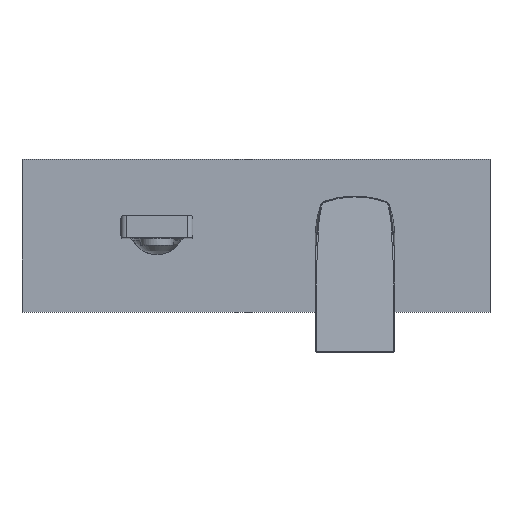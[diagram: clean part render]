
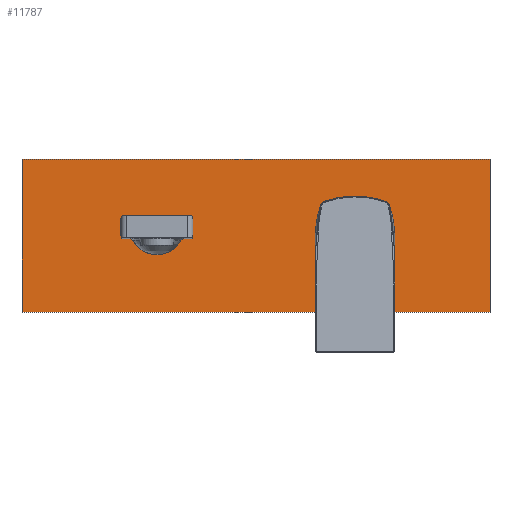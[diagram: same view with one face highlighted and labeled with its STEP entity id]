
A CAD part, top view. The second image highlights one B-rep face of the part: STEP entity #11787.
In plain terms, the highlighted planar face has unit normal (0, 0, 1).
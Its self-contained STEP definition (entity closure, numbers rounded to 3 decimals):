
#3757=DIRECTION('',(0.,-1.,0.));
#3758=VECTOR('',#3757,85.);
#3759=CARTESIAN_POINT('',(-187.,42.5,45.7));
#3760=LINE('',#3759,#3758);
#3761=DIRECTION('',(-1.,0.,0.));
#3762=VECTOR('',#3761,260.);
#3763=CARTESIAN_POINT('',(73.,42.5,45.7));
#3764=LINE('',#3763,#3762);
#3765=DIRECTION('',(0.,1.,0.));
#3766=VECTOR('',#3765,85.);
#3767=CARTESIAN_POINT('',(73.,-42.5,45.7));
#3768=LINE('',#3767,#3766);
#3769=DIRECTION('',(1.,0.,0.));
#3770=VECTOR('',#3769,260.);
#3771=CARTESIAN_POINT('',(-187.,-42.5,45.7));
#3772=LINE('',#3771,#3770);
#3773=CARTESIAN_POINT('',(-2.,0.,45.7));
#3774=DIRECTION('',(0.,0.,1.));
#3775=DIRECTION('',(1.,0.,0.));
#3776=AXIS2_PLACEMENT_3D('',#3773,#3774,#3775);
#3778=CARTESIAN_POINT('',(-2.,0.,45.7));
#3779=DIRECTION('',(0.,0.,1.));
#3780=DIRECTION('',(-1.,0.,0.));
#3781=AXIS2_PLACEMENT_3D('',#3778,#3779,#3780);
#3783=DIRECTION('',(0.,-1.,0.));
#3784=VECTOR('',#3783,9.);
#3785=CARTESIAN_POINT('',(-92.,9.,45.7));
#3786=LINE('',#3785,#3784);
#3787=CARTESIAN_POINT('',(-112.,4.5,45.7));
#3788=DIRECTION('',(0.,0.,-1.));
#3789=DIRECTION('',(0.948,0.317,0.));
#3790=AXIS2_PLACEMENT_3D('',#3787,#3788,#3789);
#3792=DIRECTION('',(1.,0.,0.));
#3793=VECTOR('',#3792,38.884);
#3794=CARTESIAN_POINT('',(-131.442,11.,45.7));
#3795=LINE('',#3794,#3793);
#3796=CARTESIAN_POINT('',(-112.,4.5,45.7));
#3797=DIRECTION('',(0.,0.,-1.));
#3798=DIRECTION('',(-0.976,0.22,0.));
#3799=AXIS2_PLACEMENT_3D('',#3796,#3797,#3798);
#3801=DIRECTION('',(0.,1.,0.));
#3802=VECTOR('',#3801,9.);
#3803=CARTESIAN_POINT('',(-132.,0.,45.7));
#3804=LINE('',#3803,#3802);
#3805=CARTESIAN_POINT('',(-112.,4.5,45.7));
#3806=DIRECTION('',(0.,0.,-1.));
#3807=DIRECTION('',(-0.956,-0.293,0.));
#3808=AXIS2_PLACEMENT_3D('',#3805,#3806,#3807);
#3810=DIRECTION('',(-1.,0.,0.));
#3811=VECTOR('',#3810,4.922);
#3812=CARTESIAN_POINT('',(-126.68,-1.5,45.7));
#3813=LINE('',#3812,#3811);
#3814=DIRECTION('',(-0.819,0.574,0.));
#3815=VECTOR('',#3814,1.715);
#3816=CARTESIAN_POINT('',(-125.275,-2.484,45.7));
#3817=LINE('',#3816,#3815);
#3818=CARTESIAN_POINT('',(-125.275,-2.484,45.7));
#3819=CARTESIAN_POINT('',(-124.432,-4.086,45.7));
#3820=CARTESIAN_POINT('',(-122.159,-6.982,45.7));
#3821=CARTESIAN_POINT('',(-117.432,-9.837,45.7));
#3822=CARTESIAN_POINT('',(-113.811,-10.5,45.7));
#3823=CARTESIAN_POINT('',(-112.,-10.5,45.7));
#3825=CARTESIAN_POINT('',(-112.,-10.5,45.7));
#3826=CARTESIAN_POINT('',(-110.189,-10.5,45.7));
#3827=CARTESIAN_POINT('',(-106.568,-9.837,45.7));
#3828=CARTESIAN_POINT('',(-101.841,-6.982,45.7));
#3829=CARTESIAN_POINT('',(-99.568,-4.086,45.7));
#3830=CARTESIAN_POINT('',(-98.725,-2.484,45.7));
#3832=DIRECTION('',(-0.819,-0.574,0.));
#3833=VECTOR('',#3832,1.715);
#3834=CARTESIAN_POINT('',(-97.32,-1.5,45.7));
#3835=LINE('',#3834,#3833);
#3836=DIRECTION('',(-1.,0.,0.));
#3837=VECTOR('',#3836,4.922);
#3838=CARTESIAN_POINT('',(-92.398,-1.5,45.7));
#3839=LINE('',#3838,#3837);
#3840=CARTESIAN_POINT('',(-112.,4.5,45.7));
#3841=DIRECTION('',(0.,0.,-1.));
#3842=DIRECTION('',(0.976,-0.22,0.));
#3843=AXIS2_PLACEMENT_3D('',#3840,#3841,#3842);
#9114=CARTESIAN_POINT('',(-187.,-42.5,45.7));
#9115=CARTESIAN_POINT('',(73.,-42.5,45.7));
#9116=VERTEX_POINT('',#9114);
#9117=VERTEX_POINT('',#9115);
#9118=CARTESIAN_POINT('',(73.,42.5,45.7));
#9119=CARTESIAN_POINT('',(-187.,42.5,45.7));
#9120=VERTEX_POINT('',#9118);
#9121=VERTEX_POINT('',#9119);
#9130=CARTESIAN_POINT('',(18.25,0.,45.7));
#9131=CARTESIAN_POINT('',(-22.25,0.,45.7));
#9132=VERTEX_POINT('',#9130);
#9133=VERTEX_POINT('',#9131);
#9362=CARTESIAN_POINT('',(-92.,9.,45.7));
#9363=CARTESIAN_POINT('',(-92.,0.,45.7));
#9364=VERTEX_POINT('',#9362);
#9365=VERTEX_POINT('',#9363);
#9366=CARTESIAN_POINT('',(-92.398,-1.5,45.7));
#9367=CARTESIAN_POINT('',(-97.32,-1.5,45.7));
#9368=VERTEX_POINT('',#9366);
#9369=VERTEX_POINT('',#9367);
#9370=CARTESIAN_POINT('',(-126.68,-1.5,45.7));
#9371=CARTESIAN_POINT('',(-131.602,-1.5,45.7));
#9372=VERTEX_POINT('',#9370);
#9373=VERTEX_POINT('',#9371);
#9374=CARTESIAN_POINT('',(-132.,0.,45.7));
#9375=CARTESIAN_POINT('',(-132.,9.,45.7));
#9376=VERTEX_POINT('',#9374);
#9377=VERTEX_POINT('',#9375);
#9378=CARTESIAN_POINT('',(-131.442,11.,45.7));
#9379=CARTESIAN_POINT('',(-92.558,11.,45.7));
#9380=VERTEX_POINT('',#9378);
#9381=VERTEX_POINT('',#9379);
#9382=VERTEX_POINT('',#3825);
#9383=VERTEX_POINT('',#3830);
#9384=VERTEX_POINT('',#3818);
#11742=CARTESIAN_POINT('',(-57.,0.,45.7));
#11743=DIRECTION('',(0.,0.,1.));
#11744=DIRECTION('',(1.,0.,0.));
#11745=AXIS2_PLACEMENT_3D('',#11742,#11743,#11744);
#11746=PLANE('',#11745);
#11747=ORIENTED_EDGE('',*,*,#11694,.F.);
#11748=ORIENTED_EDGE('',*,*,#11709,.F.);
#11749=ORIENTED_EDGE('',*,*,#11723,.F.);
#11750=ORIENTED_EDGE('',*,*,#11736,.F.);
#11751=EDGE_LOOP('',(#11747,#11748,#11749,#11750));
#11752=FACE_OUTER_BOUND('',#11751,.F.);
#11754=ORIENTED_EDGE('',*,*,#11753,.T.);
#11756=ORIENTED_EDGE('',*,*,#11755,.T.);
#11757=EDGE_LOOP('',(#11754,#11756));
#11758=FACE_BOUND('',#11757,.F.);
#11760=ORIENTED_EDGE('',*,*,#11759,.F.);
#11762=ORIENTED_EDGE('',*,*,#11761,.F.);
#11764=ORIENTED_EDGE('',*,*,#11763,.F.);
#11766=ORIENTED_EDGE('',*,*,#11765,.F.);
#11768=ORIENTED_EDGE('',*,*,#11767,.F.);
#11770=ORIENTED_EDGE('',*,*,#11769,.F.);
#11772=ORIENTED_EDGE('',*,*,#11771,.F.);
#11774=ORIENTED_EDGE('',*,*,#11773,.F.);
#11776=ORIENTED_EDGE('',*,*,#11775,.T.);
#11778=ORIENTED_EDGE('',*,*,#11777,.T.);
#11780=ORIENTED_EDGE('',*,*,#11779,.F.);
#11782=ORIENTED_EDGE('',*,*,#11781,.F.);
#11784=ORIENTED_EDGE('',*,*,#11783,.F.);
#11785=EDGE_LOOP('',(#11760,#11762,#11764,#11766,#11768,#11770,#11772,#11774,
#11776,#11778,#11780,#11782,#11784));
#11786=FACE_BOUND('',#11785,.F.);
#11787=ADVANCED_FACE('',(#11752,#11758,#11786),#11746,.T.);
#3777=CIRCLE('',#3776,20.25);
#3782=CIRCLE('',#3781,20.25);
#3791=CIRCLE('',#3790,20.5);
#3800=CIRCLE('',#3799,20.5);
#3809=CIRCLE('',#3808,20.5);
#3824=B_SPLINE_CURVE_WITH_KNOTS('',3,(#3818,#3819,#3820,#3821,#3822,#3823),
.UNSPECIFIED.,.F.,.F.,(4,1,1,4),(0.,0.333,0.667,1.),
.UNSPECIFIED.);
#3831=B_SPLINE_CURVE_WITH_KNOTS('',3,(#3825,#3826,#3827,#3828,#3829,#3830),
.UNSPECIFIED.,.F.,.F.,(4,1,1,4),(0.,0.333,0.667,1.),
.UNSPECIFIED.);
#3844=CIRCLE('',#3843,20.5);
#11694=EDGE_CURVE('',#9121,#9116,#3760,.T.);
#11709=EDGE_CURVE('',#9120,#9121,#3764,.T.);
#11723=EDGE_CURVE('',#9117,#9120,#3768,.T.);
#11736=EDGE_CURVE('',#9116,#9117,#3772,.T.);
#11753=EDGE_CURVE('',#9132,#9133,#3777,.T.);
#11755=EDGE_CURVE('',#9133,#9132,#3782,.T.);
#11759=EDGE_CURVE('',#9364,#9365,#3786,.T.);
#11761=EDGE_CURVE('',#9381,#9364,#3791,.T.);
#11763=EDGE_CURVE('',#9380,#9381,#3795,.T.);
#11765=EDGE_CURVE('',#9377,#9380,#3800,.T.);
#11767=EDGE_CURVE('',#9376,#9377,#3804,.T.);
#11769=EDGE_CURVE('',#9373,#9376,#3809,.T.);
#11771=EDGE_CURVE('',#9372,#9373,#3813,.T.);
#11773=EDGE_CURVE('',#9384,#9372,#3817,.T.);
#11775=EDGE_CURVE('',#9384,#9382,#3824,.T.);
#11777=EDGE_CURVE('',#9382,#9383,#3831,.T.);
#11779=EDGE_CURVE('',#9369,#9383,#3835,.T.);
#11781=EDGE_CURVE('',#9368,#9369,#3839,.T.);
#11783=EDGE_CURVE('',#9365,#9368,#3844,.T.);
